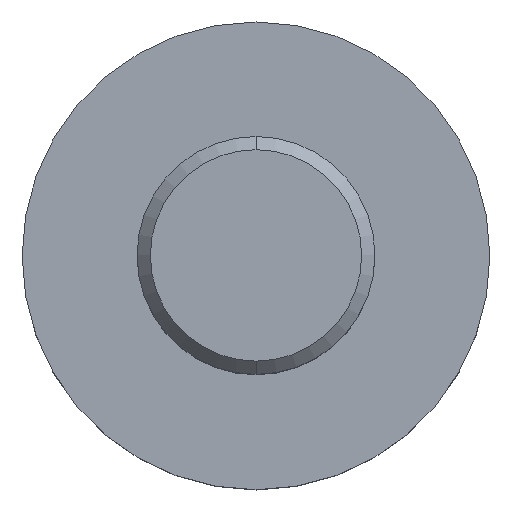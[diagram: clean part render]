
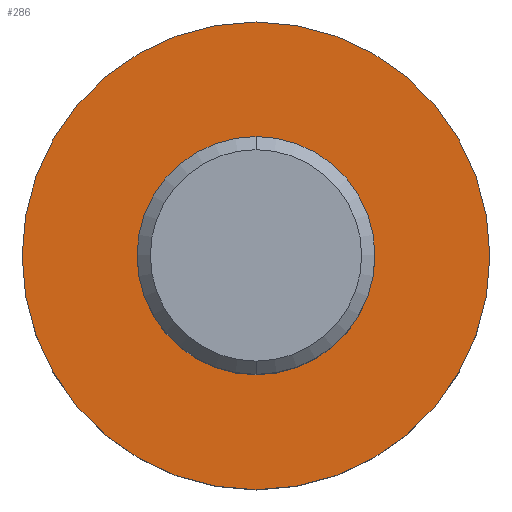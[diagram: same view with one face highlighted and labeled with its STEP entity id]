
A CAD part, top view. The second image highlights one B-rep face of the part: STEP entity #286.
In plain terms, the highlighted planar face has unit normal (0, 0, 1).
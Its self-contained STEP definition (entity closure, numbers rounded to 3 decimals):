
#1=CARTESIAN_POINT('',(0.,0.,-1.));
#2=DIRECTION('',(0.,0.,1.));
#3=DIRECTION('',(0.,1.,0.));
#4=AXIS2_PLACEMENT_3D('',#1,#2,#3);
#6=CARTESIAN_POINT('',(0.,0.,-1.));
#7=DIRECTION('',(0.,0.,-1.));
#8=DIRECTION('',(0.,1.,0.));
#9=AXIS2_PLACEMENT_3D('',#6,#7,#8);
#173=CARTESIAN_POINT('',(0.,0.,-1.));
#174=DIRECTION('',(0.,0.,-1.));
#175=DIRECTION('',(0.,1.,0.));
#176=AXIS2_PLACEMENT_3D('',#173,#174,#175);
#182=CARTESIAN_POINT('',(0.,0.,-1.));
#183=DIRECTION('',(0.,0.,1.));
#184=DIRECTION('',(0.,1.,0.));
#185=AXIS2_PLACEMENT_3D('',#182,#183,#184);
#215=CARTESIAN_POINT('',(0.,0.45,-1.));
#217=VERTEX_POINT('',#215);
#240=CARTESIAN_POINT('',(0.,0.885,-1.));
#242=VERTEX_POINT('',#240);
#243=CARTESIAN_POINT('',(0.,-0.45,-1.));
#245=VERTEX_POINT('',#243);
#266=CARTESIAN_POINT('',(0.,-0.885,-1.));
#268=VERTEX_POINT('',#266);
#269=CARTESIAN_POINT('',(0.,0.,-1.));
#270=DIRECTION('',(0.,0.,1.));
#271=DIRECTION('',(0.,1.,0.));
#272=AXIS2_PLACEMENT_3D('',#269,#270,#271);
#273=PLANE('',#272);
#275=ORIENTED_EDGE('',*,*,#274,.F.);
#277=ORIENTED_EDGE('',*,*,#276,.T.);
#278=EDGE_LOOP('',(#275,#277));
#279=FACE_OUTER_BOUND('',#278,.F.);
#281=ORIENTED_EDGE('',*,*,#280,.F.);
#283=ORIENTED_EDGE('',*,*,#282,.T.);
#284=EDGE_LOOP('',(#281,#283));
#285=FACE_BOUND('',#284,.F.);
#286=ADVANCED_FACE('',(#279,#285),#273,.T.);
#5=CIRCLE('',#4,0.885);
#10=CIRCLE('',#9,0.885);
#177=CIRCLE('',#176,0.45);
#186=CIRCLE('',#185,0.45);
#274=EDGE_CURVE('',#242,#268,#5,.T.);
#276=EDGE_CURVE('',#242,#268,#10,.T.);
#280=EDGE_CURVE('',#217,#245,#177,.T.);
#282=EDGE_CURVE('',#217,#245,#186,.T.);
